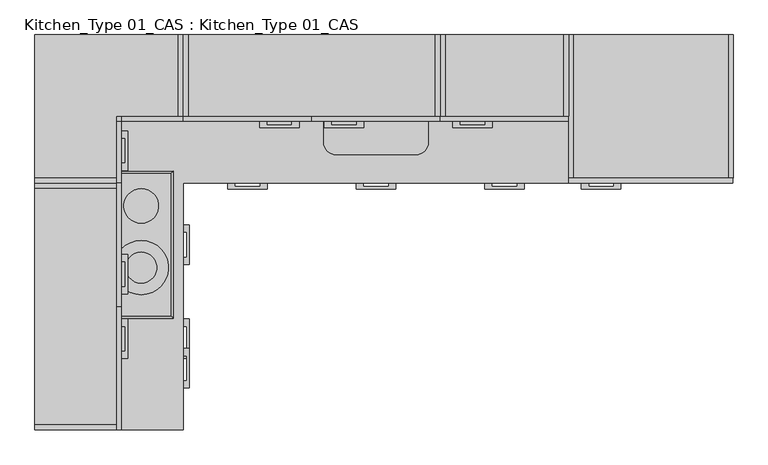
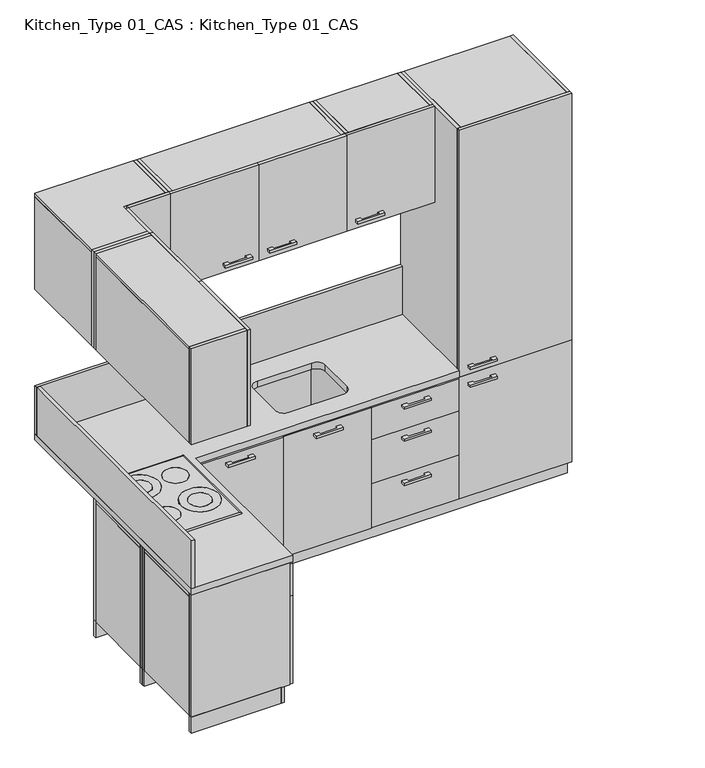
"""IFC4 building model written with IfcOpenShell, lengths in millimetres: furniture geometry, Kitchen_Type 01_CAS : Kitchen_Type 01_CAS."""

from ifc_helpers import new_model, si_unit, point, frame, frame_2d, origin, origin_with_axes, place, context, project, spatial, polyline, circle_curve, ellipse_curve, trimmed, segment, composite_curve, outline, extrude, source, transform, mapped, element, save
from ifc_brep_helpers import plane_surface, cylinder_surface, advanced_brep


def kitchen_type_01_cas_kitchen_type_01_cas_dab9dc17(model_context):
    return source(origin(), model_context, "Body", "SolidModel", [
        advanced_brep(
        [(417.571415, 11.960876, 908.0), (409.571415, 19.960876, 900.0), (409.571415, -576.039124, 900.0), (417.571415, -568.039124, 908.0), (417.571415, 11.960876, 900.0), (417.571415, -568.039124, 900.0), (875.571415, -576.039124, 900.0), (867.571415, -568.039124, 908.0), (867.571415, -568.039124, 900.0), (875.571415, 19.960876, 900.0), (867.571415, 11.960876, 908.0), (867.571415, 11.960876, 900.0)],
        [
            (0, 1, ellipse_curve(frame((417.571415, 11.960876, 900.0), z_axis=(-0.7071067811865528, -0.707106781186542, 0.0), x_axis=(-0.7071067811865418, 0.7071067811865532, 0.0)), 11.3137085, 8.0)),
            (1, 2),
            (2, 3, ellipse_curve(frame((417.571415, -568.039124, 900.0), z_axis=(-0.7071067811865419, 0.7071067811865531, 0.0), x_axis=(0.7071067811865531, 0.7071067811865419, 0.0)), 11.3137085, 8.0)),
            (3, 0),
            (4, 0),
            (3, 5),
            (5, 4),
            (2, 6),
            (6, 7, ellipse_curve(frame((867.571415, -568.039124, 900.0), z_axis=(-0.7071067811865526, -0.7071067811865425, 0.0), x_axis=(-0.7071067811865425, 0.7071067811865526, 0.0)), 11.3137085, 8.0)),
            (7, 3),
            (7, 8),
            (8, 5),
            (6, 9),
            (9, 10, ellipse_curve(frame((867.571415, 11.960876, 900.0), z_axis=(0.7071067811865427, -0.7071067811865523, 0.0), x_axis=(-0.7071067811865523, -0.7071067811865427, 0.0)), 11.3137085, 8.0)),
            (10, 7),
            (10, 11),
            (11, 8),
            (1, 9),
            (11, 4),
            (0, 10),
        ],
        [
            cylinder_surface(frame((417.571415, 11.960876, 900.0), z_axis=(0.0, 1.0000000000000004, 0.0), x_axis=(-1.0000000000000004, 0.0, 0.0)), 8.0),
            plane_surface(frame((417.571415, 11.960876, 908.0), z_axis=(1.0, 0.0, 0.0), x_axis=(0.0, -1.0, 0.0))),
            cylinder_surface(frame((417.571415, -568.039124, 900.0), z_axis=(-1.0000000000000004, 0.0, 0.0), x_axis=(0.0, -1.0000000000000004, 0.0)), 8.0),
            plane_surface(frame((417.571415, -568.039124, 908.0), z_axis=(0.0, 1.0, 0.0), x_axis=(1.0, 0.0, 0.0))),
            cylinder_surface(frame((867.571415, -568.039124, 900.0), z_axis=(0.0, -1.0000000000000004, 0.0), x_axis=(1.0000000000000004, 0.0, 0.0)), 8.0),
            plane_surface(frame((867.571415, -568.039124, 908.0), z_axis=(-1.0, 0.0, 0.0), x_axis=(0.0, 1.0, 0.0))),
            plane_surface(frame((867.571415, 11.960876, 900.0), z_axis=(0.0, 0.0, -1.0), x_axis=(-1.0, 0.0, 0.0))),
            cylinder_surface(frame((867.571415, 11.960876, 900.0), z_axis=(1.0000000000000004, 0.0, 0.0), x_axis=(0.0, 1.0000000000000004, 0.0)), 8.0),
            plane_surface(frame((867.571415, 11.960876, 908.0), z_axis=(0.0, -1.0, 0.0), x_axis=(-1.0, 0.0, 0.0))),
        ],
        [
            (0, [[1, 2, 3, 4]]),
            (1, [[5, -4, 6, 7]]),
            (2, [[-3, 8, 9, 10]]),
            (3, [[-6, -10, 11, 12]]),
            (4, [[-9, 13, 14, 15]]),
            (5, [[-11, -15, 16, 17]]),
            (6, [[18, -13, -8, -2], [-12, -17, 19, -7]]),
            (7, [[-14, -18, -1, 20]]),
            (8, [[-16, -20, -5, -19]]),
        ],
    ),
        extrude(outline(polyline([(867.571415, -568.039124), (417.571415, -568.039124), (417.571415, 11.960876), (867.571415, 11.960876), (867.571415, -568.039124)]), holes=[composite_curve([segment(trimmed(circle_curve(frame_2d((745.071415, -120.539124)), 70.0), [point((745.071415, -50.539124))], [point((745.071415, -190.539124))], True, "CARTESIAN"), True, "CONTINUOUS"), segment(trimmed(circle_curve(frame_2d((745.071415, -120.539124)), 70.0), [point((745.071415, -190.539124))], [point((745.071415, -50.539124))], True, "CARTESIAN"), True, "CONTINUOUS")], self_intersect=False), composite_curve([segment(trimmed(circle_curve(frame_2d((535.071415, -120.539124)), 110.0), [point((535.071415, -10.539124))], [point((535.071415, -230.539124))], True, "CARTESIAN"), True, "CONTINUOUS"), segment(trimmed(circle_curve(frame_2d((535.071415, -120.539124)), 110.0), [point((535.071415, -230.539124))], [point((535.071415, -10.539124))], True, "CARTESIAN"), True, "CONTINUOUS")], self_intersect=False), composite_curve([segment(trimmed(circle_curve(frame_2d((745.071415, -370.539124)), 110.0), [point((745.071415, -260.539124))], [point((745.071415, -480.539124))], True, "CARTESIAN"), True, "CONTINUOUS"), segment(trimmed(circle_curve(frame_2d((745.071415, -370.539124)), 110.0), [point((745.071415, -480.539124))], [point((745.071415, -260.539124))], True, "CARTESIAN"), True, "CONTINUOUS")], self_intersect=False), composite_curve([segment(trimmed(circle_curve(frame_2d((535.071415, -400.539124)), 70.0), [point((535.071415, -330.539124))], [point((535.071415, -470.539124))], True, "CARTESIAN"), True, "CONTINUOUS"), segment(trimmed(circle_curve(frame_2d((535.071415, -400.539124)), 70.0), [point((535.071415, -470.539124))], [point((535.071415, -330.539124))], True, "CARTESIAN"), True, "CONTINUOUS")], self_intersect=False)]), frame((0.0, 0.0, 900.0), z_axis=(0.0, 0.0, 1.0), x_axis=(1.0, 0.0, 0.0)), (0.0, 0.0, 1.0), 8.0),
        extrude(outline(composite_curve([segment(trimmed(circle_curve(frame_2d((535.071415, -120.539124)), 62.5), [point((535.071415, -58.039124))], [point((535.071415, -183.039124))], False, "CARTESIAN"), True, "CONTINUOUS"), segment(trimmed(circle_curve(frame_2d((535.071415, -120.539124)), 62.5), [point((535.071415, -183.039124))], [point((535.071415, -58.039124))], False, "CARTESIAN"), True, "CONTINUOUS")], self_intersect=False)), frame((0.0, 0.0, 900.0), z_axis=(0.0, 0.0, 1.0), x_axis=(1.0, 0.0, 0.0)), (0.0, 0.0, 1.0), 8.0),
        extrude(outline(composite_curve([segment(trimmed(circle_curve(frame_2d((745.071415, -370.539124)), 62.5), [point((745.071415, -308.039124))], [point((745.071415, -433.039124))], False, "CARTESIAN"), True, "CONTINUOUS"), segment(trimmed(circle_curve(frame_2d((745.071415, -370.539124)), 62.5), [point((745.071415, -433.039124))], [point((745.071415, -308.039124))], False, "CARTESIAN"), True, "CONTINUOUS")], self_intersect=False)), frame((0.0, 0.0, 900.0), z_axis=(0.0, 0.0, 1.0), x_axis=(1.0, 0.0, 0.0)), (0.0, 0.0, 1.0), 8.0),
        extrude(outline(composite_curve([segment(trimmed(circle_curve(frame_2d((745.071415, -120.539124)), 70.0), [point((745.071415, -190.539124))], [point((745.071415, -50.539124))], False, "CARTESIAN"), True, "CONTINUOUS"), segment(trimmed(circle_curve(frame_2d((745.071415, -120.539124)), 70.0), [point((745.071415, -50.539124))], [point((745.071415, -190.539124))], False, "CARTESIAN"), True, "CONTINUOUS")], self_intersect=False)), frame((0.0, 0.0, 894.0), z_axis=(0.0, 0.0, 1.0), x_axis=(1.0, 0.0, 0.0)), (0.0, 0.0, 1.0), 14.0),
        extrude(outline(composite_curve([segment(trimmed(circle_curve(frame_2d((535.071415, -120.539124)), 110.0), [point((535.071415, -230.539124))], [point((535.071415, -10.539124))], False, "CARTESIAN"), True, "CONTINUOUS"), segment(trimmed(circle_curve(frame_2d((535.071415, -120.539124)), 110.0), [point((535.071415, -10.539124))], [point((535.071415, -230.539124))], False, "CARTESIAN"), True, "CONTINUOUS")], self_intersect=False), holes=[composite_curve([segment(trimmed(circle_curve(frame_2d((535.071415, -120.539124)), 62.5), [point((535.071415, -183.039124))], [point((535.071415, -58.039124))], True, "CARTESIAN"), True, "CONTINUOUS"), segment(trimmed(circle_curve(frame_2d((535.071415, -120.539124)), 62.5), [point((535.071415, -58.039124))], [point((535.071415, -183.039124))], True, "CARTESIAN"), True, "CONTINUOUS")], self_intersect=False)]), frame((0.0, 0.0, 894.0), z_axis=(0.0, 0.0, 1.0), x_axis=(1.0, 0.0, 0.0)), (0.0, 0.0, 1.0), 14.0),
        extrude(outline(composite_curve([segment(trimmed(circle_curve(frame_2d((745.071415, -370.539124)), 110.0), [point((745.071415, -480.539124))], [point((745.071415, -260.539124))], False, "CARTESIAN"), True, "CONTINUOUS"), segment(trimmed(circle_curve(frame_2d((745.071415, -370.539124)), 110.0), [point((745.071415, -260.539124))], [point((745.071415, -480.539124))], False, "CARTESIAN"), True, "CONTINUOUS")], self_intersect=False), holes=[composite_curve([segment(trimmed(circle_curve(frame_2d((745.071415, -370.539124)), 62.5), [point((745.071415, -433.039124))], [point((745.071415, -308.039124))], True, "CARTESIAN"), True, "CONTINUOUS"), segment(trimmed(circle_curve(frame_2d((745.071415, -370.539124)), 62.5), [point((745.071415, -308.039124))], [point((745.071415, -433.039124))], True, "CARTESIAN"), True, "CONTINUOUS")], self_intersect=False)]), frame((0.0, 0.0, 894.0), z_axis=(0.0, 0.0, 1.0), x_axis=(1.0, 0.0, 0.0)), (0.0, 0.0, 1.0), 14.0),
        extrude(outline(composite_curve([segment(trimmed(circle_curve(frame_2d((535.071415, -400.539124)), 70.0), [point((535.071415, -470.539124))], [point((535.071415, -330.539124))], False, "CARTESIAN"), True, "CONTINUOUS"), segment(trimmed(circle_curve(frame_2d((535.071415, -400.539124)), 70.0), [point((535.071415, -330.539124))], [point((535.071415, -470.539124))], False, "CARTESIAN"), True, "CONTINUOUS")], self_intersect=False)), frame((0.0, 0.0, 894.0), z_axis=(0.0, 0.0, 1.0), x_axis=(1.0, 0.0, 0.0)), (0.0, 0.0, 1.0), 14.0),
        extrude(outline(polyline([(335.0, -998.039124), (335.0, -558.039124), (895.0, -558.039124), (895.0, -998.039124), (335.0, -998.039124)])), frame((0.0, 0.0, 390.0), z_axis=(0.0, 0.0, 1.0), x_axis=(1.0, 0.0, 0.0)), (0.0, 0.0, 1.0), 20.0),
        extrude(outline(polyline([(940.0, -579.039124), (940.0, -739.039124), (915.0, -739.039124), (915.0, -710.039124), (930.0, -710.039124), (930.0, -608.039124), (915.0, -608.039124), (915.0, -579.039124), (940.0, -579.039124)])), frame((0.0, 0.0, 592.5), z_axis=(0.0, 0.0, 1.0), x_axis=(1.0, 0.0, 0.0)), (0.0, 0.0, 1.0), 15.0),
        extrude(outline(polyline([(915.0, -1027.039124), (895.0, -1027.039124), (895.0, -529.039124), (915.0, -529.039124), (915.0, -1027.039124)])), frame((0.0, 0.0, 100.0), z_axis=(0.0, 0.0, 1.0), x_axis=(1.0, 0.0, 0.0)), (0.0, 0.0, 1.0), 550.0),
        extrude(outline(polyline([(940.0, -698.039124), (940.0, -858.039124), (915.0, -858.039124), (915.0, -829.039124), (930.0, -829.039124), (930.0, -727.039124), (915.0, -727.039124), (915.0, -698.039124), (940.0, -698.039124)])), frame((0.0, 0.0, 792.5), z_axis=(0.0, 0.0, 1.0), x_axis=(1.0, 0.0, 0.0)), (0.0, 0.0, 1.0), 15.0),
        extrude(outline(polyline([(915.0, -1027.039124), (895.0, -1027.039124), (895.0, -529.039124), (915.0, -529.039124), (915.0, -1027.039124)])), frame((0.0, 0.0, 650.0), z_axis=(0.0, 0.0, 1.0), x_axis=(1.0, 0.0, 0.0)), (0.0, 0.0, 1.0), 200.0),
        extrude(outline(polyline([(845.0, -528.039124), (845.0, -1028.039124), (315.0, -1028.039124), (315.0, -1008.039124), (825.0, -1008.039124), (825.0, -548.039124), (315.0, -548.039124), (315.0, -528.039124), (845.0, -528.039124)])), origin_with_axes(), (0.0, 0.0, 1.0), 100.0),
        extrude(outline(polyline([(315.0, -1008.039124), (895.0, -1008.039124), (895.0, -1028.039124), (315.0, -1028.039124), (315.0, -1008.039124)])), frame((0.0, 0.0, 100.0), z_axis=(0.0, 0.0, 1.0), x_axis=(1.0, 0.0, 0.0)), (0.0, 0.0, 1.0), 760.0),
        extrude(outline(polyline([(315.0, -528.039124), (895.0, -528.039124), (895.0, -548.039124), (315.0, -548.039124), (315.0, -528.039124)])), frame((0.0, 0.0, 100.0), z_axis=(0.0, 0.0, 1.0), x_axis=(1.0, 0.0, 0.0)), (0.0, 0.0, 1.0), 760.0),
        extrude(outline(polyline([(335.0, -1008.039124), (315.0, -1008.039124), (315.0, -548.039124), (335.0, -548.039124), (335.0, -1008.039124)])), frame((0.0, 0.0, 100.0), z_axis=(0.0, 0.0, 1.0), x_axis=(1.0, 0.0, 0.0)), (0.0, 0.0, 1.0), 740.0),
        extrude(outline(polyline([(335.0, -1008.039124), (335.0, -548.039124), (895.0, -548.039124), (895.0, -1008.039124), (335.0, -1008.039124)])), frame((0.0, 0.0, 100.0), z_axis=(0.0, 0.0, 1.0), x_axis=(1.0, 0.0, 0.0)), (0.0, 0.0, 1.0), 20.0),
        extrude(outline(polyline([(315.0, -1008.039124), (315.0, -548.039124), (380.0, -548.039124), (380.0, -1008.039124), (315.0, -1008.039124)])), frame((0.0, 0.0, 840.0), z_axis=(0.0, 0.0, 1.0), x_axis=(1.0, 0.0, 0.0)), (0.0, 0.0, 1.0), 20.0),
        extrude(outline(polyline([(830.0, -548.039124), (895.0, -548.039124), (895.0, -1008.039124), (830.0, -1008.039124), (830.0, -548.039124)])), frame((0.0, 0.0, 840.0), z_axis=(0.0, 0.0, 1.0), x_axis=(1.0, 0.0, 0.0)), (0.0, 0.0, 1.0), 20.0),
        extrude(outline(polyline([(940.0, -198.039124), (940.0, -358.039124), (915.0, -358.039124), (915.0, -329.039124), (930.0, -329.039124), (930.0, -227.039124), (915.0, -227.039124), (915.0, -198.039124), (940.0, -198.039124)])), frame((0.0, 0.0, 792.5), z_axis=(0.0, 0.0, 1.0), x_axis=(1.0, 0.0, 0.0)), (0.0, 0.0, 1.0), 15.0),
        extrude(outline(polyline([(915.0, -527.039124), (895.0, -527.039124), (895.0, -29.039124), (915.0, -29.039124), (915.0, -527.039124)])), frame((0.0, 0.0, 475.5), z_axis=(0.0, 0.0, 1.0), x_axis=(1.0, 0.0, 0.0)), (0.0, 0.0, 1.0), 374.5),
        extrude(outline(polyline([(940.0, -198.039124), (940.0, -358.039124), (915.0, -358.039124), (915.0, -329.039124), (930.0, -329.039124), (930.0, -227.039124), (915.0, -227.039124), (915.0, -198.039124), (940.0, -198.039124)])), frame((0.0, 0.0, 417.0), z_axis=(0.0, 0.0, 1.0), x_axis=(1.0, 0.0, 0.0)), (0.0, 0.0, 1.0), 15.0),
        extrude(outline(polyline([(915.0, -527.039124), (895.0, -527.039124), (895.0, -29.039124), (915.0, -29.039124), (915.0, -527.039124)])), frame((0.0, 0.0, 100.0), z_axis=(0.0, 0.0, 1.0), x_axis=(1.0, 0.0, 0.0)), (0.0, 0.0, 1.0), 374.5),
        extrude(outline(polyline([(845.0, -28.039124), (845.0, -528.039124), (315.0, -528.039124), (315.0, -508.039124), (825.0, -508.039124), (825.0, -48.039124), (315.0, -48.039124), (315.0, -28.039124), (845.0, -28.039124)])), origin_with_axes(), (0.0, 0.0, 1.0), 100.0),
        extrude(outline(polyline([(315.0, -508.039124), (895.0, -508.039124), (895.0, -528.039124), (315.0, -528.039124), (315.0, -508.039124)])), frame((0.0, 0.0, 100.0), z_axis=(0.0, 0.0, 1.0), x_axis=(1.0, 0.0, 0.0)), (0.0, 0.0, 1.0), 760.0),
        extrude(outline(polyline([(315.0, -28.039124), (895.0, -28.039124), (895.0, -48.039124), (315.0, -48.039124), (315.0, -28.039124)])), frame((0.0, 0.0, 100.0), z_axis=(0.0, 0.0, 1.0), x_axis=(1.0, 0.0, 0.0)), (0.0, 0.0, 1.0), 760.0),
        extrude(outline(polyline([(335.0, -508.039124), (315.0, -508.039124), (315.0, -48.039124), (335.0, -48.039124), (335.0, -508.039124)])), frame((0.0, 0.0, 100.0), z_axis=(0.0, 0.0, 1.0), x_axis=(1.0, 0.0, 0.0)), (0.0, 0.0, 1.0), 740.0),
        extrude(outline(polyline([(335.0, -508.039124), (335.0, -48.039124), (895.0, -48.039124), (895.0, -508.039124), (335.0, -508.039124)])), frame((0.0, 0.0, 100.0), z_axis=(0.0, 0.0, 1.0), x_axis=(1.0, 0.0, 0.0)), (0.0, 0.0, 1.0), 20.0),
        extrude(outline(polyline([(315.0, -508.039124), (315.0, -48.039124), (380.0, -48.039124), (380.0, -508.039124), (315.0, -508.039124)])), frame((0.0, 0.0, 840.0), z_axis=(0.0, 0.0, 1.0), x_axis=(1.0, 0.0, 0.0)), (0.0, 0.0, 1.0), 20.0),
        extrude(outline(polyline([(830.0, -48.039124), (895.0, -48.039124), (895.0, -508.039124), (830.0, -508.039124), (830.0, -48.039124)])), frame((0.0, 0.0, 840.0), z_axis=(0.0, 0.0, 1.0), x_axis=(1.0, 0.0, 0.0)), (0.0, 0.0, 1.0), 20.0),
        extrude(outline(polyline([(1384.0, 196.960876), (1224.0, 196.960876), (1224.0, 221.960876), (1253.0, 221.960876), (1253.0, 206.960876), (1355.0, 206.960876), (1355.0, 221.960876), (1384.0, 221.960876), (1384.0, 196.960876)])), frame((0.0, 0.0, 1842.5), z_axis=(0.0, 0.0, 1.0), x_axis=(1.0, 0.0, 0.0)), (0.0, 0.0, 1.0), 15.0),
        extrude(outline(polyline([(916.0, 221.960876), (916.0, 241.960876), (1434.0, 241.960876), (1434.0, 221.960876), (916.0, 221.960876)])), frame((0.0, 0.0, 1800.0), z_axis=(0.0, 0.0, 1.0), x_axis=(1.0, 0.0, 0.0)), (0.0, 0.0, 1.0), 599.0),
        extrude(outline(polyline([(1486.0, 196.960876), (1486.0, 221.960876), (1515.0, 221.960876), (1515.0, 206.960876), (1617.0, 206.960876), (1617.0, 221.960876), (1646.0, 221.960876), (1646.0, 196.960876), (1486.0, 196.960876)])), frame((0.0, 0.0, 1842.5), z_axis=(0.0, 0.0, 1.0), x_axis=(1.0, 0.0, 0.0)), (0.0, 0.0, 1.0), 15.0),
        extrude(outline(polyline([(1954.0, 221.960876), (1436.0, 221.960876), (1436.0, 241.960876), (1954.0, 241.960876), (1954.0, 221.960876)])), frame((0.0, 0.0, 1800.0), z_axis=(0.0, 0.0, 1.0), x_axis=(1.0, 0.0, 0.0)), (0.0, 0.0, 1.0), 599.0),
        extrude(outline(polyline([(1935.0, 571.960876), (1955.0, 571.960876), (1955.0, 241.960876), (1935.0, 241.960876), (1935.0, 571.960876)])), frame((0.0, 0.0, 1800.0), z_axis=(0.0, 0.0, 1.0), x_axis=(1.0, 0.0, 0.0)), (0.0, 0.0, 1.0), 600.0),
        extrude(outline(polyline([(915.0, 571.960876), (935.0, 571.960876), (935.0, 241.960876), (915.0, 241.960876), (915.0, 571.960876)])), frame((0.0, 0.0, 1800.0), z_axis=(0.0, 0.0, 1.0), x_axis=(1.0, 0.0, 0.0)), (0.0, 0.0, 1.0), 600.0),
        extrude(outline(polyline([(1935.0, 551.960876), (935.0, 551.960876), (935.0, 571.960876), (1935.0, 571.960876), (1935.0, 551.960876)])), frame((0.0, 0.0, 1800.0), z_axis=(0.0, 0.0, 1.0), x_axis=(1.0, 0.0, 0.0)), (0.0, 0.0, 1.0), 580.0),
        extrude(outline(polyline([(1935.0, 551.960876), (1935.0, 241.960876), (935.0, 241.960876), (935.0, 551.960876), (1935.0, 551.960876)])), frame((0.0, 0.0, 1800.0), z_axis=(0.0, 0.0, 1.0), x_axis=(1.0, 0.0, 0.0)), (0.0, 0.0, 1.0), 20.0),
        extrude(outline(polyline([(1935.0, 571.960876), (1935.0, 241.960876), (935.0, 241.960876), (935.0, 571.960876), (1935.0, 571.960876)])), frame((0.0, 0.0, 2380.0), z_axis=(0.0, 0.0, 1.0), x_axis=(1.0, 0.0, 0.0)), (0.0, 0.0, 1.0), 20.0),
        extrude(outline(polyline([(690.0, 22.960876), (665.0, 22.960876), (665.0, 51.960876), (680.0, 51.960876), (680.0, 153.960876), (665.0, 153.960876), (665.0, 182.960876), (690.0, 182.960876), (690.0, 22.960876)])), frame((0.0, 0.0, 1842.5), z_axis=(0.0, 0.0, 1.0), x_axis=(1.0, 0.0, 0.0)), (0.0, 0.0, 1.0), 15.0),
        extrude(outline(polyline([(665.0, 220.960876), (665.0, -27.039124), (645.0, -27.039124), (645.0, 220.960876), (665.0, 220.960876)])), frame((0.0, 0.0, 1800.0), z_axis=(0.0, 0.0, 1.0), x_axis=(1.0, 0.0, 0.0)), (0.0, 0.0, 1.0), 599.0),
        extrude(outline(polyline([(914.0, 221.960876), (666.0, 221.960876), (666.0, 241.960876), (914.0, 241.960876), (914.0, 221.960876)])), frame((0.0, 0.0, 1800.0), z_axis=(0.0, 0.0, 1.0), x_axis=(1.0, 0.0, 0.0)), (0.0, 0.0, 1.0), 599.0),
        extrude(outline(polyline([(885.0, 551.960876), (885.0, 241.960876), (645.0, 241.960876), (645.0, 1.960876), (335.0, 1.960876), (335.0, 551.960876), (885.0, 551.960876)])), frame((0.0, 0.0, 2090.0), z_axis=(0.0, 0.0, 1.0), x_axis=(1.0, 0.0, 0.0)), (0.0, 0.0, 1.0), 20.0),
        extrude(outline(polyline([(315.0, -28.039124), (315.0, -8.039124), (645.0, -8.039124), (645.0, -28.039124), (315.0, -28.039124)])), frame((0.0, 0.0, 1800.0), z_axis=(0.0, 0.0, 1.0), x_axis=(1.0, 0.0, 0.0)), (0.0, 0.0, 1.0), 600.0),
        extrude(outline(polyline([(895.0, 571.960876), (915.0, 571.960876), (915.0, 241.960876), (895.0, 241.960876), (895.0, 571.960876)])), frame((0.0, 0.0, 1800.0), z_axis=(0.0, 0.0, 1.0), x_axis=(1.0, 0.0, 0.0)), (0.0, 0.0, 1.0), 600.0),
        extrude(outline(polyline([(895.0, 551.960876), (335.0, 551.960876), (335.0, -8.039124), (315.0, -8.039124), (315.0, 571.960876), (895.0, 571.960876), (895.0, 551.960876)])), frame((0.0, 0.0, 1800.0), z_axis=(0.0, 0.0, 1.0), x_axis=(1.0, 0.0, 0.0)), (0.0, 0.0, 1.0), 580.0),
        extrude(outline(polyline([(895.0, 551.960876), (895.0, 241.960876), (645.0, 241.960876), (645.0, -8.039124), (335.0, -8.039124), (335.0, 551.960876), (895.0, 551.960876)])), frame((0.0, 0.0, 1800.0), z_axis=(0.0, 0.0, 1.0), x_axis=(1.0, 0.0, 0.0)), (0.0, 0.0, 1.0), 20.0),
        extrude(outline(polyline([(895.0, 571.960876), (895.0, 241.960876), (645.0, 241.960876), (645.0, -8.039124), (315.0, -8.039124), (315.0, 571.960876), (895.0, 571.960876)])), frame((0.0, 0.0, 2380.0), z_axis=(0.0, 0.0, 1.0), x_axis=(1.0, 0.0, 0.0)), (0.0, 0.0, 1.0), 20.0),
        extrude(outline(polyline([(1095.0, -53.039124), (1095.0, -28.039124), (1124.0, -28.039124), (1124.0, -43.039124), (1226.0, -43.039124), (1226.0, -28.039124), (1255.0, -28.039124), (1255.0, -53.039124), (1095.0, -53.039124)])), frame((0.0, 0.0, 792.5), z_axis=(0.0, 0.0, 1.0), x_axis=(1.0, 0.0, 0.0)), (0.0, 0.0, 1.0), 15.0),
        extrude(outline(polyline([(1434.0, -28.039124), (916.0, -28.039124), (916.0, -8.039124), (1434.0, -8.039124), (1434.0, -28.039124)])), frame((0.0, 0.0, 100.0), z_axis=(0.0, 0.0, 1.0), x_axis=(1.0, 0.0, 0.0)), (0.0, 0.0, 1.0), 750.0),
        extrude(outline(polyline([(915.0, 41.960876), (915.0, 571.960876), (935.0, 571.960876), (935.0, 61.960876), (1415.0, 61.960876), (1415.0, 571.960876), (1435.0, 571.960876), (1435.0, 41.960876), (915.0, 41.960876)])), origin_with_axes(), (0.0, 0.0, 1.0), 100.0),
        extrude(outline(polyline([(1415.0, 571.960876), (1435.0, 571.960876), (1435.0, -8.039124), (1415.0, -8.039124), (1415.0, 571.960876)])), frame((0.0, 0.0, 100.0), z_axis=(0.0, 0.0, 1.0), x_axis=(1.0, 0.0, 0.0)), (0.0, 0.0, 1.0), 760.0),
        extrude(outline(polyline([(915.0, 571.960876), (935.0, 571.960876), (935.0, -8.039124), (915.0, -8.039124), (915.0, 571.960876)])), frame((0.0, 0.0, 100.0), z_axis=(0.0, 0.0, 1.0), x_axis=(1.0, 0.0, 0.0)), (0.0, 0.0, 1.0), 760.0),
        extrude(outline(polyline([(1415.0, 551.960876), (935.0, 551.960876), (935.0, 571.960876), (1415.0, 571.960876), (1415.0, 551.960876)])), frame((0.0, 0.0, 100.0), z_axis=(0.0, 0.0, 1.0), x_axis=(1.0, 0.0, 0.0)), (0.0, 0.0, 1.0), 740.0),
        extrude(outline(polyline([(1415.0, 551.960876), (1415.0, -8.039124), (935.0, -8.039124), (935.0, 551.960876), (1415.0, 551.960876)])), frame((0.0, 0.0, 100.0), z_axis=(0.0, 0.0, 1.0), x_axis=(1.0, 0.0, 0.0)), (0.0, 0.0, 1.0), 20.0),
        extrude(outline(polyline([(1415.0, 571.960876), (1415.0, 506.960876), (935.0, 506.960876), (935.0, 571.960876), (1415.0, 571.960876)])), frame((0.0, 0.0, 840.0), z_axis=(0.0, 0.0, 1.0), x_axis=(1.0, 0.0, 0.0)), (0.0, 0.0, 1.0), 20.0),
        extrude(outline(polyline([(935.0, 56.960876), (1415.0, 56.960876), (1415.0, -8.039124), (935.0, -8.039124), (935.0, 56.960876)])), frame((0.0, 0.0, 840.0), z_axis=(0.0, 0.0, 1.0), x_axis=(1.0, 0.0, 0.0)), (0.0, 0.0, 1.0), 20.0),
        extrude(outline(polyline([(690.0, -579.039124), (690.0, -739.039124), (665.0, -739.039124), (665.0, -710.039124), (680.0, -710.039124), (680.0, -608.039124), (665.0, -608.039124), (665.0, -579.039124), (690.0, -579.039124)])), frame((0.0, 0.0, 1842.5), z_axis=(0.0, 0.0, 1.0), x_axis=(1.0, 0.0, 0.0)), (0.0, 0.0, 1.0), 15.0),
        extrude(outline(polyline([(665.0, -1027.039124), (645.0, -1027.039124), (645.0, -529.039124), (665.0, -529.039124), (665.0, -1027.039124)])), frame((0.0, 0.0, 1800.0), z_axis=(0.0, 0.0, 1.0), x_axis=(1.0, 0.0, 0.0)), (0.0, 0.0, 1.0), 599.0),
        extrude(outline(polyline([(690.0, -477.039124), (665.0, -477.039124), (665.0, -448.039124), (680.0, -448.039124), (680.0, -346.039124), (665.0, -346.039124), (665.0, -317.039124), (690.0, -317.039124), (690.0, -477.039124)])), frame((0.0, 0.0, 1842.5), z_axis=(0.0, 0.0, 1.0), x_axis=(1.0, 0.0, 0.0)), (0.0, 0.0, 1.0), 15.0),
        extrude(outline(polyline([(665.0, -29.039124), (665.0, -527.039124), (645.0, -527.039124), (645.0, -29.039124), (665.0, -29.039124)])), frame((0.0, 0.0, 1800.0), z_axis=(0.0, 0.0, 1.0), x_axis=(1.0, 0.0, 0.0)), (0.0, 0.0, 1.0), 599.0),
        extrude(outline(polyline([(315.0, -48.039124), (315.0, -28.039124), (645.0, -28.039124), (645.0, -48.039124), (315.0, -48.039124)])), frame((0.0, 0.0, 1800.0), z_axis=(0.0, 0.0, 1.0), x_axis=(1.0, 0.0, 0.0)), (0.0, 0.0, 1.0), 600.0),
        extrude(outline(polyline([(315.0, -1028.039124), (315.0, -1008.039124), (645.0, -1008.039124), (645.0, -1028.039124), (315.0, -1028.039124)])), frame((0.0, 0.0, 1800.0), z_axis=(0.0, 0.0, 1.0), x_axis=(1.0, 0.0, 0.0)), (0.0, 0.0, 1.0), 600.0),
        extrude(outline(polyline([(335.0, -48.039124), (335.0, -1008.039124), (315.0, -1008.039124), (315.0, -48.039124), (335.0, -48.039124)])), frame((0.0, 0.0, 1800.0), z_axis=(0.0, 0.0, 1.0), x_axis=(1.0, 0.0, 0.0)), (0.0, 0.0, 1.0), 580.0),
        extrude(outline(polyline([(335.0, -48.039124), (645.0, -48.039124), (645.0, -1008.039124), (335.0, -1008.039124), (335.0, -48.039124)])), frame((0.0, 0.0, 1800.0), z_axis=(0.0, 0.0, 1.0), x_axis=(1.0, 0.0, 0.0)), (0.0, 0.0, 1.0), 20.0),
        extrude(outline(polyline([(315.0, -48.039124), (645.0, -48.039124), (645.0, -1008.039124), (315.0, -1008.039124), (315.0, -48.039124)])), frame((0.0, 0.0, 2380.0), z_axis=(0.0, 0.0, 1.0), x_axis=(1.0, 0.0, 0.0)), (0.0, 0.0, 1.0), 20.0),
        extrude(outline(polyline([(865.0, 21.960876), (865.0, -1028.039124), (845.0, -1028.039124), (845.0, 21.960876), (865.0, 21.960876)])), origin_with_axes(), (0.0, 0.0, 1.0), 100.0),
        extrude(outline(polyline([(315.0, -1028.039124), (315.0, 551.960876), (335.0, 551.960876), (335.0, -1028.039124), (315.0, -1028.039124)])), frame((0.0, 0.0, 900.0), z_axis=(0.0, 0.0, 1.0), x_axis=(1.0, 0.0, 0.0)), (0.0, 0.0, 1.0), 300.0),
        extrude(outline(polyline([(315.0, 571.960876), (2475.0, 571.960876), (2475.0, 551.960876), (315.0, 551.960876), (315.0, 571.960876)])), frame((0.0, 0.0, 900.0), z_axis=(0.0, 0.0, 1.0), x_axis=(1.0, 0.0, 0.0)), (0.0, 0.0, 1.0), 300.0),
        extrude(outline(polyline([(1775.0, -53.039124), (1615.0, -53.039124), (1615.0, -28.039124), (1644.0, -28.039124), (1644.0, -43.039124), (1746.0, -43.039124), (1746.0, -28.039124), (1775.0, -28.039124), (1775.0, -53.039124)])), frame((0.0, 0.0, 792.5), z_axis=(0.0, 0.0, 1.0), x_axis=(1.0, 0.0, 0.0)), (0.0, 0.0, 1.0), 15.0),
        extrude(outline(polyline([(1436.0, -28.039124), (1436.0, -8.039124), (1954.0, -8.039124), (1954.0, -28.039124), (1436.0, -28.039124)])), frame((0.0, 0.0, 100.0), z_axis=(0.0, 0.0, 1.0), x_axis=(1.0, 0.0, 0.0)), (0.0, 0.0, 1.0), 750.0),
        extrude(outline(polyline([(1955.0, 41.960876), (1435.0, 41.960876), (1435.0, 571.960876), (1455.0, 571.960876), (1455.0, 61.960876), (1935.0, 61.960876), (1935.0, 571.960876), (1955.0, 571.960876), (1955.0, 41.960876)])), origin_with_axes(), (0.0, 0.0, 1.0), 100.0),
        extrude(outline(polyline([(1455.0, 571.960876), (1455.0, -8.039124), (1435.0, -8.039124), (1435.0, 571.960876), (1455.0, 571.960876)])), frame((0.0, 0.0, 100.0), z_axis=(0.0, 0.0, 1.0), x_axis=(1.0, 0.0, 0.0)), (0.0, 0.0, 1.0), 760.0),
        extrude(outline(polyline([(1955.0, 571.960876), (1955.0, -8.039124), (1935.0, -8.039124), (1935.0, 571.960876), (1955.0, 571.960876)])), frame((0.0, 0.0, 100.0), z_axis=(0.0, 0.0, 1.0), x_axis=(1.0, 0.0, 0.0)), (0.0, 0.0, 1.0), 760.0),
        extrude(outline(polyline([(1455.0, 551.960876), (1455.0, 571.960876), (1935.0, 571.960876), (1935.0, 551.960876), (1455.0, 551.960876)])), frame((0.0, 0.0, 100.0), z_axis=(0.0, 0.0, 1.0), x_axis=(1.0, 0.0, 0.0)), (0.0, 0.0, 1.0), 740.0),
        extrude(outline(polyline([(1455.0, 551.960876), (1935.0, 551.960876), (1935.0, -8.039124), (1455.0, -8.039124), (1455.0, 551.960876)])), frame((0.0, 0.0, 100.0), z_axis=(0.0, 0.0, 1.0), x_axis=(1.0, 0.0, 0.0)), (0.0, 0.0, 1.0), 20.0),
        extrude(outline(polyline([(1455.0, 571.960876), (1935.0, 571.960876), (1935.0, 506.960876), (1455.0, 506.960876), (1455.0, 571.960876)])), frame((0.0, 0.0, 840.0), z_axis=(0.0, 0.0, 1.0), x_axis=(1.0, 0.0, 0.0)), (0.0, 0.0, 1.0), 20.0),
        extrude(outline(polyline([(1935.0, 56.960876), (1935.0, -8.039124), (1455.0, -8.039124), (1455.0, 56.960876), (1935.0, 56.960876)])), frame((0.0, 0.0, 840.0), z_axis=(0.0, 0.0, 1.0), x_axis=(1.0, 0.0, 0.0)), (0.0, 0.0, 1.0), 20.0),
        extrude(outline(polyline([(2006.0, 196.960876), (2006.0, 221.960876), (2035.0, 221.960876), (2035.0, 206.960876), (2137.0, 206.960876), (2137.0, 221.960876), (2166.0, 221.960876), (2166.0, 196.960876), (2006.0, 196.960876)])), frame((0.0, 0.0, 1842.5), z_axis=(0.0, 0.0, 1.0), x_axis=(1.0, 0.0, 0.0)), (0.0, 0.0, 1.0), 15.0),
        extrude(outline(polyline([(2474.0, 221.960876), (1956.0, 221.960876), (1956.0, 241.960876), (2474.0, 241.960876), (2474.0, 221.960876)])), frame((0.0, 0.0, 1800.0), z_axis=(0.0, 0.0, 1.0), x_axis=(1.0, 0.0, 0.0)), (0.0, 0.0, 1.0), 599.0),
        extrude(outline(polyline([(2455.0, 571.960876), (2475.0, 571.960876), (2475.0, 241.960876), (2455.0, 241.960876), (2455.0, 571.960876)])), frame((0.0, 0.0, 1800.0), z_axis=(0.0, 0.0, 1.0), x_axis=(1.0, 0.0, 0.0)), (0.0, 0.0, 1.0), 600.0),
        extrude(outline(polyline([(1955.0, 571.960876), (1975.0, 571.960876), (1975.0, 241.960876), (1955.0, 241.960876), (1955.0, 571.960876)])), frame((0.0, 0.0, 1800.0), z_axis=(0.0, 0.0, 1.0), x_axis=(1.0, 0.0, 0.0)), (0.0, 0.0, 1.0), 600.0),
        extrude(outline(polyline([(2455.0, 551.960876), (1975.0, 551.960876), (1975.0, 571.960876), (2455.0, 571.960876), (2455.0, 551.960876)])), frame((0.0, 0.0, 1800.0), z_axis=(0.0, 0.0, 1.0), x_axis=(1.0, 0.0, 0.0)), (0.0, 0.0, 1.0), 580.0),
        extrude(outline(polyline([(2455.0, 551.960876), (2455.0, 241.960876), (1975.0, 241.960876), (1975.0, 551.960876), (2455.0, 551.960876)])), frame((0.0, 0.0, 1800.0), z_axis=(0.0, 0.0, 1.0), x_axis=(1.0, 0.0, 0.0)), (0.0, 0.0, 1.0), 20.0),
        extrude(outline(polyline([(2455.0, 571.960876), (2455.0, 241.960876), (1975.0, 241.960876), (1975.0, 571.960876), (2455.0, 571.960876)])), frame((0.0, 0.0, 2380.0), z_axis=(0.0, 0.0, 1.0), x_axis=(1.0, 0.0, 0.0)), (0.0, 0.0, 1.0), 20.0),
        extrude(outline(polyline([(3140.0, 21.960876), (845.0, 21.960876), (845.0, 41.960876), (3140.0, 41.960876), (3140.0, 21.960876)])), origin_with_axes(), (0.0, 0.0, 1.0), 100.0),
        extrude(outline(polyline([(915.0, -1028.039124), (315.0, -1028.039124), (315.0, 571.960876), (2475.0, 571.960876), (2475.0, -28.039124), (915.0, -28.039124), (915.0, -1028.039124)]), holes=[composite_curve([segment(trimmed(circle_curve(frame_2d((1533.9, 357.8054982)), 50.8), [point((1533.9, 408.6054982))], [point((1483.1, 357.8054982))], True, "CARTESIAN"), True, "CONTINUOUS"), segment(polyline([(1483.1, 357.8054982), (1483.1, 137.4344154)]), True, "CONTINUOUS"), segment(trimmed(circle_curve(frame_2d((1533.9, 137.4344154)), 50.8), [point((1483.1, 137.4344154))], [point((1533.9, 86.6344154))], True, "CARTESIAN"), True, "CONTINUOUS"), segment(polyline([(1533.9, 86.6344154), (1856.1, 86.6344154)]), True, "CONTINUOUS"), segment(trimmed(circle_curve(frame_2d((1856.1, 137.4344154)), 50.8), [point((1856.1, 86.6344154))], [point((1906.9, 137.4344154))], True, "CARTESIAN"), True, "CONTINUOUS"), segment(polyline([(1906.9, 137.4344154), (1906.9, 357.8054982)]), True, "CONTINUOUS"), segment(trimmed(circle_curve(frame_2d((1856.1, 357.8054982)), 50.8), [point((1906.9, 357.8054982))], [point((1856.1, 408.6054982))], True, "CARTESIAN"), True, "CONTINUOUS"), segment(polyline([(1856.1, 408.6054982), (1533.9, 408.6054982)]), True, "CONTINUOUS")], self_intersect=False)]), frame((0.0, 0.0, 860.0), z_axis=(0.0, 0.0, 1.0), x_axis=(1.0, 0.0, 0.0)), (0.0, 0.0, 1.0), 40.0),
        extrude(outline(polyline([(3110.0, 551.960876), (3110.0, -8.039124), (2505.0, -8.039124), (2505.0, 551.960876), (3110.0, 551.960876)])), frame((0.0, 0.0, 1990.0), z_axis=(0.0, 0.0, 1.0), x_axis=(1.0, 0.0, 0.0)), (0.0, 0.0, 1.0), 20.0),
        extrude(outline(polyline([(3110.0, 551.960876), (3110.0, -8.039124), (2505.0, -8.039124), (2505.0, 551.960876), (3110.0, 551.960876)])), frame((0.0, 0.0, 1690.0), z_axis=(0.0, 0.0, 1.0), x_axis=(1.0, 0.0, 0.0)), (0.0, 0.0, 1.0), 20.0),
        extrude(outline(polyline([(3110.0, 551.960876), (3110.0, -8.039124), (2505.0, -8.039124), (2505.0, 551.960876), (3110.0, 551.960876)])), frame((0.0, 0.0, 1390.0), z_axis=(0.0, 0.0, 1.0), x_axis=(1.0, 0.0, 0.0)), (0.0, 0.0, 1.0), 20.0),
        extrude(outline(polyline([(3110.0, 551.960876), (3110.0, -8.039124), (2505.0, -8.039124), (2505.0, 551.960876), (3110.0, 551.960876)])), frame((0.0, 0.0, 1090.0), z_axis=(0.0, 0.0, 1.0), x_axis=(1.0, 0.0, 0.0)), (0.0, 0.0, 1.0), 20.0),
        extrude(outline(polyline([(3120.0, 551.960876), (3120.0, -8.039124), (2495.0, -8.039124), (2495.0, 551.960876), (3120.0, 551.960876)])), frame((0.0, 0.0, 790.0), z_axis=(0.0, 0.0, 1.0), x_axis=(1.0, 0.0, 0.0)), (0.0, 0.0, 1.0), 20.0),
        extrude(outline(polyline([(2526.0, -53.039124), (2526.0, -28.039124), (2555.0, -28.039124), (2555.0, -43.039124), (2657.0, -43.039124), (2657.0, -28.039124), (2686.0, -28.039124), (2686.0, -53.039124), (2526.0, -53.039124)])), frame((0.0, 0.0, 902.5), z_axis=(0.0, 0.0, 1.0), x_axis=(1.0, 0.0, 0.0)), (0.0, 0.0, 1.0), 15.0),
        extrude(outline(polyline([(3139.0, -28.039124), (2476.0, -28.039124), (2476.0, -8.039124), (3139.0, -8.039124), (3139.0, -28.039124)])), frame((0.0, 0.0, 860.0), z_axis=(0.0, 0.0, 1.0), x_axis=(1.0, 0.0, 0.0)), (0.0, 0.0, 1.0), 1540.0),
        extrude(outline(polyline([(2526.0, -53.039124), (2526.0, -28.039124), (2555.0, -28.039124), (2555.0, -43.039124), (2657.0, -43.039124), (2657.0, -28.039124), (2686.0, -28.039124), (2686.0, -53.039124), (2526.0, -53.039124)])), frame((0.0, 0.0, 792.5), z_axis=(0.0, 0.0, 1.0), x_axis=(1.0, 0.0, 0.0)), (0.0, 0.0, 1.0), 15.0),
        extrude(outline(polyline([(3139.0, -28.039124), (2476.0, -28.039124), (2476.0, -8.039124), (3139.0, -8.039124), (3139.0, -28.039124)])), frame((0.0, 0.0, 100.0), z_axis=(0.0, 0.0, 1.0), x_axis=(1.0, 0.0, 0.0)), (0.0, 0.0, 1.0), 760.0),
        extrude(outline(polyline([(2475.0, 41.960876), (2475.0, 571.960876), (2495.0, 571.960876), (2495.0, 61.960876), (3120.0, 61.960876), (3120.0, 571.960876), (3140.0, 571.960876), (3140.0, 41.960876), (2475.0, 41.960876)])), origin_with_axes(), (0.0, 0.0, 1.0), 100.0),
        extrude(outline(polyline([(3120.0, 551.960876), (3120.0, -8.039124), (2495.0, -8.039124), (2495.0, 551.960876), (3120.0, 551.960876)])), frame((0.0, 0.0, 100.0), z_axis=(0.0, 0.0, 1.0), x_axis=(1.0, 0.0, 0.0)), (0.0, 0.0, 1.0), 20.0),
        extrude(outline(polyline([(3120.0, 571.960876), (3120.0, -8.039124), (2495.0, -8.039124), (2495.0, 571.960876), (3120.0, 571.960876)])), frame((0.0, 0.0, 2380.0), z_axis=(0.0, 0.0, 1.0), x_axis=(1.0, 0.0, 0.0)), (0.0, 0.0, 1.0), 20.0),
        extrude(outline(polyline([(3120.0, 571.960876), (3140.0, 571.960876), (3140.0, -8.039124), (3120.0, -8.039124), (3120.0, 571.960876)])), frame((0.0, 0.0, 100.0), z_axis=(0.0, 0.0, 1.0), x_axis=(1.0, 0.0, 0.0)), (0.0, 0.0, 1.0), 2300.0),
        extrude(outline(polyline([(2475.0, 571.960876), (2495.0, 571.960876), (2495.0, -8.039124), (2475.0, -8.039124), (2475.0, 571.960876)])), frame((0.0, 0.0, 100.0), z_axis=(0.0, 0.0, 1.0), x_axis=(1.0, 0.0, 0.0)), (0.0, 0.0, 1.0), 2300.0),
        extrude(outline(polyline([(3120.0, 551.960876), (2495.0, 551.960876), (2495.0, 571.960876), (3120.0, 571.960876), (3120.0, 551.960876)])), frame((0.0, 0.0, 100.0), z_axis=(0.0, 0.0, 1.0), x_axis=(1.0, 0.0, 0.0)), (0.0, 0.0, 1.0), 2280.0),
        extrude(outline(polyline([(2135.0, -53.039124), (2135.0, -28.039124), (2164.0, -28.039124), (2164.0, -43.039124), (2266.0, -43.039124), (2266.0, -28.039124), (2295.0, -28.039124), (2295.0, -53.039124), (2135.0, -53.039124)])), frame((0.0, 0.0, 792.5), z_axis=(0.0, 0.0, 1.0), x_axis=(1.0, 0.0, 0.0)), (0.0, 0.0, 1.0), 15.0),
        extrude(outline(polyline([(2474.0, -28.039124), (1956.0, -28.039124), (1956.0, -8.039124), (2474.0, -8.039124), (2474.0, -28.039124)])), frame((0.0, 0.0, 651.0), z_axis=(0.0, 0.0, 1.0), x_axis=(1.0, 0.0, 0.0)), (0.0, 0.0, 1.0), 199.0),
        extrude(outline(polyline([(2135.0, -53.039124), (2135.0, -28.039124), (2164.0, -28.039124), (2164.0, -43.039124), (2266.0, -43.039124), (2266.0, -28.039124), (2295.0, -28.039124), (2295.0, -53.039124), (2135.0, -53.039124)])), frame((0.0, 0.0, 592.5), z_axis=(0.0, 0.0, 1.0), x_axis=(1.0, 0.0, 0.0)), (0.0, 0.0, 1.0), 15.0),
        extrude(outline(polyline([(2474.0, -28.039124), (1956.0, -28.039124), (1956.0, -8.039124), (2474.0, -8.039124), (2474.0, -28.039124)])), frame((0.0, 0.0, 375.5), z_axis=(0.0, 0.0, 1.0), x_axis=(1.0, 0.0, 0.0)), (0.0, 0.0, 1.0), 274.5),
        extrude(outline(polyline([(2135.0, -53.039124), (2135.0, -28.039124), (2164.0, -28.039124), (2164.0, -43.039124), (2266.0, -43.039124), (2266.0, -28.039124), (2295.0, -28.039124), (2295.0, -53.039124), (2135.0, -53.039124)])), frame((0.0, 0.0, 317.0), z_axis=(0.0, 0.0, 1.0), x_axis=(1.0, 0.0, 0.0)), (0.0, 0.0, 1.0), 15.0),
        extrude(outline(polyline([(2474.0, -28.039124), (1956.0, -28.039124), (1956.0, -8.039124), (2474.0, -8.039124), (2474.0, -28.039124)])), frame((0.0, 0.0, 100.0), z_axis=(0.0, 0.0, 1.0), x_axis=(1.0, 0.0, 0.0)), (0.0, 0.0, 1.0), 274.5),
        extrude(outline(polyline([(1955.0, 41.960876), (1955.0, 571.960876), (1975.0, 571.960876), (1975.0, 61.960876), (2455.0, 61.960876), (2455.0, 571.960876), (2475.0, 571.960876), (2475.0, 41.960876), (1955.0, 41.960876)])), origin_with_axes(), (0.0, 0.0, 1.0), 100.0),
        extrude(outline(polyline([(2455.0, 571.960876), (2475.0, 571.960876), (2475.0, -8.039124), (2455.0, -8.039124), (2455.0, 571.960876)])), frame((0.0, 0.0, 100.0), z_axis=(0.0, 0.0, 1.0), x_axis=(1.0, 0.0, 0.0)), (0.0, 0.0, 1.0), 760.0),
        extrude(outline(polyline([(1955.0, 571.960876), (1975.0, 571.960876), (1975.0, -8.039124), (1955.0, -8.039124), (1955.0, 571.960876)])), frame((0.0, 0.0, 100.0), z_axis=(0.0, 0.0, 1.0), x_axis=(1.0, 0.0, 0.0)), (0.0, 0.0, 1.0), 760.0),
        extrude(outline(polyline([(2455.0, 551.960876), (1975.0, 551.960876), (1975.0, 571.960876), (2455.0, 571.960876), (2455.0, 551.960876)])), frame((0.0, 0.0, 100.0), z_axis=(0.0, 0.0, 1.0), x_axis=(1.0, 0.0, 0.0)), (0.0, 0.0, 1.0), 740.0),
        extrude(outline(polyline([(2455.0, 551.960876), (2455.0, -8.039124), (1975.0, -8.039124), (1975.0, 551.960876), (2455.0, 551.960876)])), frame((0.0, 0.0, 100.0), z_axis=(0.0, 0.0, 1.0), x_axis=(1.0, 0.0, 0.0)), (0.0, 0.0, 1.0), 20.0),
        extrude(outline(polyline([(2455.0, 571.960876), (2455.0, 506.960876), (1975.0, 506.960876), (1975.0, 571.960876), (2455.0, 571.960876)])), frame((0.0, 0.0, 840.0), z_axis=(0.0, 0.0, 1.0), x_axis=(1.0, 0.0, 0.0)), (0.0, 0.0, 1.0), 20.0),
        extrude(outline(polyline([(1975.0, 56.960876), (2455.0, 56.960876), (2455.0, -8.039124), (1975.0, -8.039124), (1975.0, 56.960876)])), frame((0.0, 0.0, 840.0), z_axis=(0.0, 0.0, 1.0), x_axis=(1.0, 0.0, 0.0)), (0.0, 0.0, 1.0), 20.0),
    ])


if __name__ == "__main__":
    model = new_model("IFC4")
    model_context = context("Model", 3, world=origin())
    ifc_project = project(units=[si_unit("LENGTHUNIT", "METRE", prefix="MILLI")], contexts=[model_context])
    site = spatial("IfcSite", under=ifc_project)
    building = spatial("IfcBuilding", under=site)
    placement = place(None, origin())
    kitchen_type_01_cas_kitchen_type_01_cas_shape = kitchen_type_01_cas_kitchen_type_01_cas_dab9dc17(model_context)
    element("IfcFurniture", 1, ObjectType="Kitchen_Type 01_CAS : Kitchen_Type 01_CAS", at=placement, inside=building, context=model_context, shape_type="MappedRepresentation", body=[
        mapped(kitchen_type_01_cas_kitchen_type_01_cas_shape, transform((0.0, 0.0, 0.0), x_axis=(1.0, 0.0, 0.0), y_axis=(0.0, 1.0, 0.0), z_axis=(0.0, 0.0, 1.0))),
    ])
    save(model, "model.ifc")
